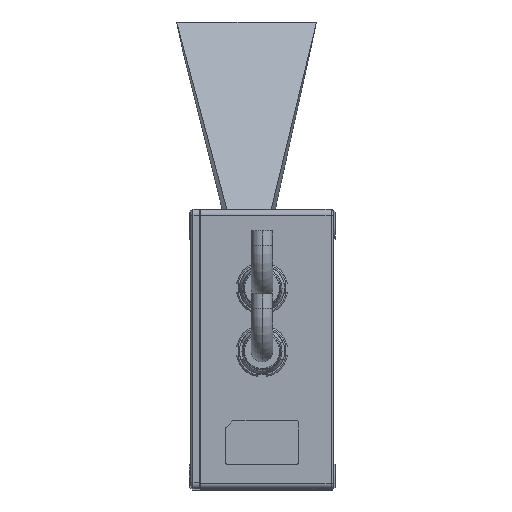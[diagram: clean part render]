
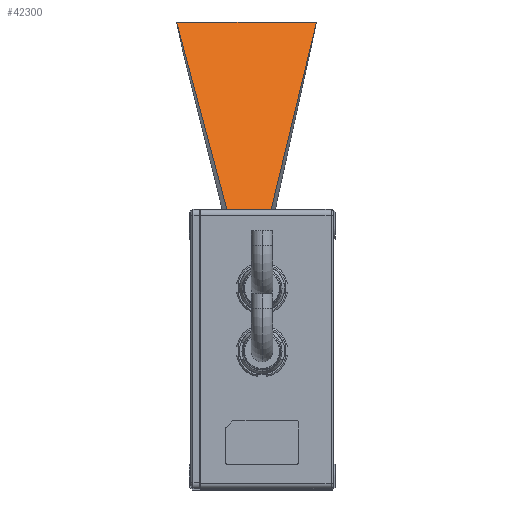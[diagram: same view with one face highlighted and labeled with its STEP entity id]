
A CAD part, left-side view. The second image highlights one B-rep face of the part: STEP entity #42300.
In plain terms, the highlighted planar face has unit normal (-0.8, 0, 0.6).
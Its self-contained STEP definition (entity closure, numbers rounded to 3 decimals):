
#42199=DIRECTION('',(0.,1.,0.));
#42200=VECTOR('',#42199,48.8);
#42201=CARTESIAN_POINT('',(138.7,6.815,-0.01));
#42202=LINE('',#42201,#42200);
#42215=DIRECTION('',(0.586,0.209,0.782));
#42216=VECTOR('',#42215,87.378);
#42217=CARTESIAN_POINT('',(87.464,37.315,
-68.383));
#42218=LINE('',#42217,#42216);
#42219=DIRECTION('',(-0.589,0.19,-0.786));
#42220=VECTOR('',#42219,87.019);
#42221=CARTESIAN_POINT('',(138.7,6.815,-0.01));
#42222=LINE('',#42221,#42220);
#42223=DIRECTION('',(0.,1.,0.));
#42224=VECTOR('',#42223,14.);
#42225=CARTESIAN_POINT('',(87.464,23.315,
-68.383));
#42226=LINE('',#42225,#42224);
#42247=CARTESIAN_POINT('',(87.464,23.315,
-68.383));
#42248=CARTESIAN_POINT('',(87.464,37.315,
-68.383));
#42249=VERTEX_POINT('',#42247);
#42250=VERTEX_POINT('',#42248);
#42255=CARTESIAN_POINT('',(138.7,6.815,-0.01));
#42256=CARTESIAN_POINT('',(138.7,55.615,-0.01));
#42257=VERTEX_POINT('',#42255);
#42258=VERTEX_POINT('',#42256);
#42286=CARTESIAN_POINT('',(113.082,31.215,
-34.197));
#42287=DIRECTION('',(0.8,0.,-0.6));
#42288=DIRECTION('',(0.,-1.,0.));
#42289=AXIS2_PLACEMENT_3D('',#42286,#42287,#42288);
#42290=PLANE('',#42289);
#42292=ORIENTED_EDGE('',*,*,#42291,.T.);
#42293=ORIENTED_EDGE('',*,*,#42268,.F.);
#42295=ORIENTED_EDGE('',*,*,#42294,.T.);
#42297=ORIENTED_EDGE('',*,*,#42296,.T.);
#42298=EDGE_LOOP('',(#42292,#42293,#42295,#42297));
#42299=FACE_OUTER_BOUND('',#42298,.F.);
#42268=EDGE_CURVE('',#42257,#42258,#42202,.T.);
#42291=EDGE_CURVE('',#42250,#42258,#42218,.T.);
#42294=EDGE_CURVE('',#42257,#42249,#42222,.T.);
#42296=EDGE_CURVE('',#42249,#42250,#42226,.T.);
#42300=ADVANCED_FACE('',(#42299),#42290,.F.);
